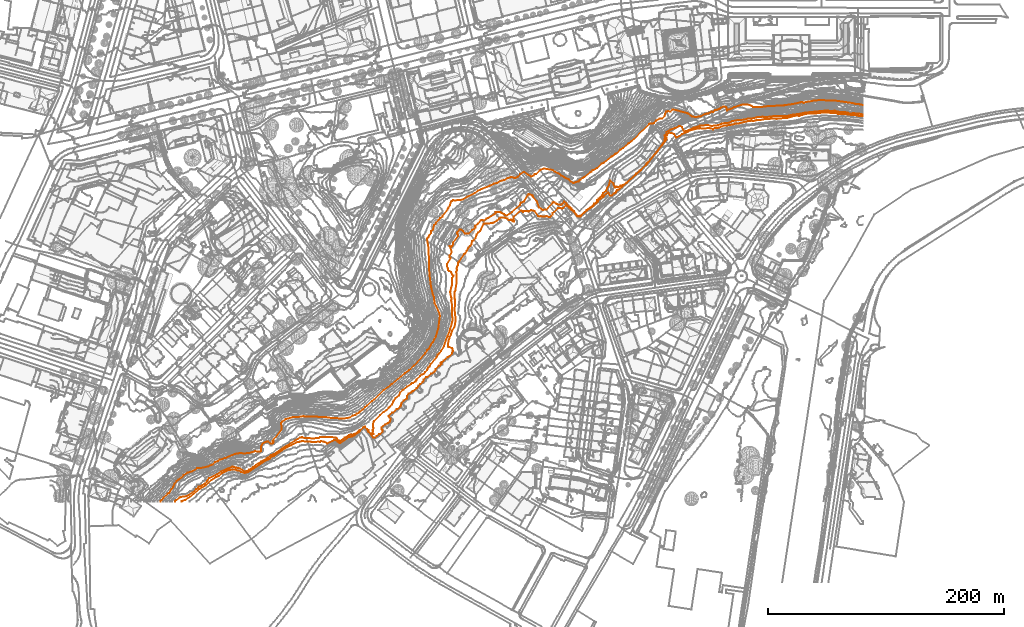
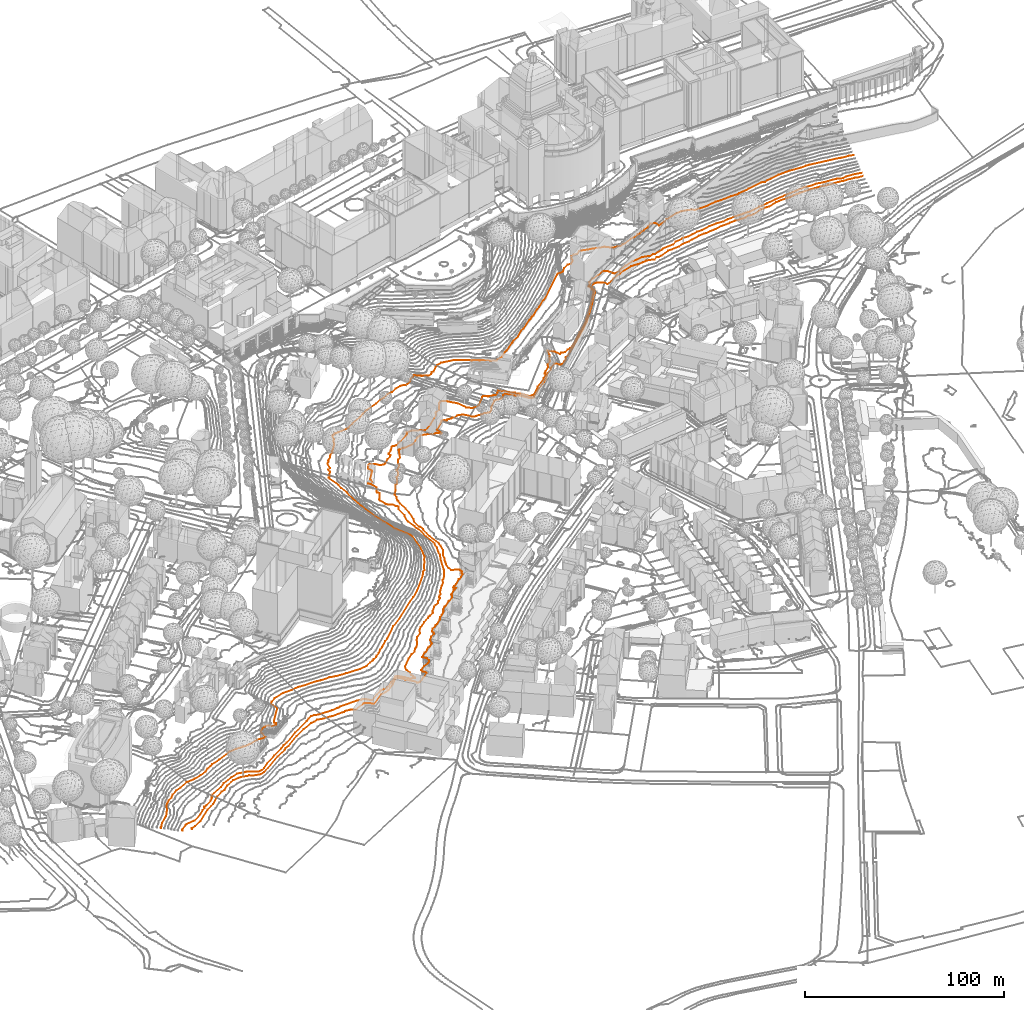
# Not in any storey, part 147 of 477: 3 geographic elements.
"""IFC4 model written with IfcOpenShell, lengths in metres."""

from ifc_helpers import new_model, entity, si_unit, frame, origin_with_axes, place, context, subcontext, project, spatial, element, save


model = new_model("IFC4")

# Units and contexts
model_context = context("Model", 3, precision=1e-05, world=origin_with_axes())
body_context = subcontext(model_context, "Body", "Model", "MODEL_VIEW")
ifc_project = project(units=[si_unit("AREAUNIT", "SQUARE_METRE"), si_unit("LENGTHUNIT", "METRE")], contexts=[model_context])

# Sites
site_1_placement = place(None, origin_with_axes())
site_1 = spatial("IfcSite", under=ifc_project, at=site_1_placement, Name="Topoexport Site")
site_2_placement = place(site_1_placement, origin_with_axes())
site_2 = spatial("IfcSite", under=site_1, at=site_2_placement, Name="TPX_CONTOUR_LINES")

# Geographic elements
geographic_element_1_placement = place(site_2_placement, frame((110.3940520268, -1.3292839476, 510.0), z_axis=(0.0, 0.0, 1.0), x_axis=(1.0, 0.0, 0.0)))
element("IfcGeographicElement", 1, at=geographic_element_1_placement, inside=site_2, Name="Contour Line 510.0 m", PredefinedType="NOTDEFINED", context=body_context, shape_type="GeometricCurveSet", body=[
    entity("IfcGeometricCurveSet", [entity("IfcIndexedPolyCurve", entity("IfcCartesianPointList3D", [[577.7836799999, 326.7669789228, 0.0], [574.2836799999, 326.7363557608, 0.0], [573.2836799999, 327.2313932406, 0.0], [569.2836799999, 327.7777656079, 0.0], [567.2836799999, 327.7127699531, 0.0], [564.2836799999, 328.3442526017, 0.0], [556.2836799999, 328.6781323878, 0.0], [554.2836799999, 329.5266267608, 0.0], [551.2836799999, 329.3858442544, 0.0], [548.2836799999, 329.7452839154, 0.0], [543.2836799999, 329.7, 0.0], [539.2836799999, 329.479507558, 0.0], [537.2836799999, 328.9265868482, 0.0], [530.2836799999, 328.789107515, 0.0], [528.3040771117, 328.5, 0.0], [523.2836799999, 327.066602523, 0.0], [521.2836799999, 327.222120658, 0.0], [518.2836799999, 326.7642361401, 0.0], [513.2836799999, 325.1437253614, 0.0], [511.2836799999, 325.0544992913, 0.0], [510.2836799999, 325.4523024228, 0.0], [508.2836799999, 324.7692546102, 0.0], [506.2836799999, 324.5548365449, 0.0], [505.2836799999, 324.789287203, 0.0], [504.2836799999, 324.4523084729, 0.0], [502.2836799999, 324.9163976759, 0.0], [499.2836799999, 324.6900641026, 0.0], [498.2836799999, 324.3695863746, 0.0], [494.2836799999, 324.3192395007, 0.0], [490.2836799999, 323.416148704, 0.0], [487.2836799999, 323.2964714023, 0.0], [484.2836799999, 322.6005133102, 0.0], [483.2836799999, 322.9277991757, 0.0], [480.2836799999, 322.5326086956, 0.0], [475.4557765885, 321.5, 0.0], [473.2836799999, 320.7614421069, 0.0], [469.2836799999, 320.4181371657, 0.0], [466.7329553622, 319.5, 0.0], [462.2836799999, 318.9413965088, 0.0], [460.2836799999, 318.9672734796, 0.0], [455.2836799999, 316.9868456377, 0.0], [453.2836799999, 316.5242144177, 0.0], [452.2836799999, 316.7693165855, 0.0], [450.2836799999, 315.6243574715, 0.0], [448.2836799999, 316.4707380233, 0.0], [446.2836799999, 316.835152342, 0.0], [444.2836799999, 316.3807059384, 0.0], [441.2836799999, 316.1952743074, 0.0], [439.2836799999, 316.5044080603, 0.0], [437.2836799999, 316.322696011, 0.0], [430.2836799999, 314.5551996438, 0.0], [429.2836799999, 313.6448474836, 0.0], [424.2836799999, 311.633938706, 0.0], [422.2836799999, 310.0085699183, 0.0], [419.2836799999, 308.8155286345, 0.0], [418.3800540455, 310.5, 0.0], [417.2836799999, 311.5084341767, 0.0], [415.2836799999, 312.6206305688, 0.0], [414.2836799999, 312.4916080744, 0.0], [413.2836799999, 312.764098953, 0.0], [411.2836799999, 310.8616551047, 0.0], [410.2008664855, 310.5, 0.0], [410.2584948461, 309.5, 0.0], [410.9462468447, 308.5, 0.0], [410.9724845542, 307.5, 0.0], [409.9808860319, 305.5, 0.0], [408.2836799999, 303.7046351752, 0.0], [403.6646736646, 297.5, 0.0], [393.7689650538, 285.5, 0.0], [389.2836799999, 281.1501439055, 0.0], [377.2836799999, 270.2683984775, 0.0], [370.2836799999, 264.460807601, 0.0], [369.2836799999, 263.9375782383, 0.0], [368.8121370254, 263.5, 0.0], [368.4382099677, 262.5, 0.0], [367.2836799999, 261.3862745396, 0.0], [366.2836799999, 260.9708987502, 0.0], [364.4357134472, 259.5, 0.0], [363.3389468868, 259.5, 0.0], [361.907327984, 261.5, 0.0], [361.2836799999, 261.8848020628, 0.0], [358.2836799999, 259.6830010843, 0.0], [357.2836799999, 258.2333138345, 0.0], [354.2836799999, 256.3672271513, 0.0], [353.2836799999, 255.4839335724, 0.0], [352.8657751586, 254.5, 0.0], [348.651875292, 250.5, 0.0], [343.2836799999, 246.6326606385, 0.0], [337.6255837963, 241.5, 0.0], [336.5901996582, 241.5, 0.0], [335.2836799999, 242.1197017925, 0.0], [332.2836799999, 246.0546306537, 0.0], [329.9327809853, 247.5, 0.0], [329.8483025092, 248.5, 0.0], [328.2357803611, 249.5, 0.0], [327.2836799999, 250.6387567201, 0.0], [326.2836799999, 251.0521917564, 0.0], [325.2836799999, 250.8266576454, 0.0], [323.2836799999, 248.904403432, 0.0], [322.2836799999, 248.5010464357, 0.0], [320.2836799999, 249.0571441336, 0.0], [319.2836799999, 248.9402390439, 0.0], [318.642635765, 248.5, 0.0], [314.5530472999, 244.5, 0.0], [314.3068471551, 243.5, 0.0], [312.2836799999, 241.3627997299, 0.0], [311.2836799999, 241.191755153, 0.0], [309.2836799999, 241.9187003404, 0.0], [306.2836799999, 241.6917665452, 0.0], [304.2836799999, 241.9492137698, 0.0], [303.2836799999, 241.7278828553, 0.0], [302.2836799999, 242.1807493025, 0.0], [299.2836799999, 246.2684630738, 0.0], [296.2836799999, 247.0476590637, 0.0], [294.2836799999, 246.0580046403, 0.0], [293.2836799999, 246.4304552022, 0.0], [292.2836799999, 246.2491626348, 0.0], [290.2836799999, 246.4360632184, 0.0], [289.2836799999, 245.3019607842, 0.0], [288.63953157, 246.5, 0.0], [287.2836799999, 246.8208041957, 0.0], [281.5077059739, 241.5, 0.0], [281.3451554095, 240.5, 0.0], [281.8093942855, 237.5, 0.0], [281.2836799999, 237.2771197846, 0.0], [280.2836799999, 238.3634204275, 0.0], [279.2836799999, 238.9767844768, 0.0], [278.2836799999, 238.5259879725, 0.0], [277.2836799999, 238.7311155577, 0.0], [276.2836799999, 239.9114502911, 0.0], [272.2836799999, 240.9739934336, 0.0], [271.2836799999, 240.9604374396, 0.0], [270.2836799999, 240.7085462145, 0.0], [269.2836799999, 240.0613516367, 0.0], [267.2836799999, 238.2057826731, 0.0], [264.2836799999, 236.3823067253, 0.0], [259.2836799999, 235.6501711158, 0.0], [258.2836799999, 235.8778004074, 0.0], [256.2836799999, 235.7762333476, 0.0], [255.8634116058, 235.5, 0.0], [253.0965344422, 229.5, 0.0], [251.2836799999, 228.2091656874, 0.0], [250.1787381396, 226.5, 0.0], [249.0941987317, 223.5, 0.0], [247.2836799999, 221.4758928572, 0.0], [246.2836799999, 220.9092465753, 0.0], [245.6120382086, 218.5, 0.0], [244.4227876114, 216.5, 0.0], [243.1567807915, 215.5, 0.0], [241.7228167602, 212.5, 0.0], [240.3370090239, 210.5, 0.0], [239.2836799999, 210.0264120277, 0.0], [235.2836799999, 203.4226904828, 0.0], [234.4561455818, 202.5, 0.0], [234.3808540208, 200.5, 0.0], [233.6906493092, 199.5, 0.0], [233.1740274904, 197.5, 0.0], [233.3512597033, 196.5, 0.0], [232.8370220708, 194.5, 0.0], [233.1739829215, 189.5, 0.0], [233.0512440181, 185.5, 0.0], [232.0480336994, 179.5, 0.0], [231.3065682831, 177.5, 0.0], [231.2415221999, 172.5, 0.0], [231.6637897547, 171.5, 0.0], [231.7655725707, 169.5, 0.0], [231.4440615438, 162.5, 0.0], [232.3314152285, 154.5, 0.0], [232.1377025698, 152.5, 0.0], [231.3691933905, 148.5, 0.0], [229.2836799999, 145.156663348, 0.0], [228.199764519, 141.5, 0.0], [227.1342481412, 139.5, 0.0], [227.0685223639, 138.5, 0.0], [226.2505929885, 136.5, 0.0], [225.778428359, 133.5, 0.0], [225.9803436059, 131.5, 0.0], [226.2836799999, 131.1812479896, 0.0], [229.2836799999, 130.1188466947, 0.0], [229.8392355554, 129.5, 0.0], [229.7735426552, 128.5, 0.0], [230.1971551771, 127.5, 0.0], [229.2836799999, 126.5430906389, 0.0], [229.2160609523, 125.5, 0.0], [227.1802517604, 123.5, 0.0], [225.7541426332, 122.5, 0.0], [225.2836799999, 122.4936468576, 0.0], [222.1785204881, 119.5, 0.0], [220.7957223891, 118.5, 0.0], [220.2836799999, 118.4831184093, 0.0], [219.3129257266, 117.5, 0.0], [220.2838059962, 116.5, 0.0], [218.9630075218, 115.5, 0.0], [218.2836799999, 115.4268913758, 0.0], [215.2836799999, 112.514488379, 0.0], [215.2784851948, 111.5, 0.0], [214.2836799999, 110.1564495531, 0.0], [211.8779609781, 108.5, 0.0], [211.2836799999, 108.4904201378, 0.0], [208.0333989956, 105.5, 0.0], [207.2836799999, 105.4844258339, 0.0], [205.2871901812, 103.5, 0.0], [205.1739197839, 102.5, 0.0], [204.2891312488, 101.5, 0.0], [202.2577262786, 99.5, 0.0], [200.7014263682, 98.5, 0.0], [199.6037858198, 96.5, 0.0], [199.2836799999, 96.4969447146, 0.0], [196.2836799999, 93.7531486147, 0.0], [195.2836799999, 93.4926540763, 0.0], [194.2836802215, 92.5, 0.0], [192.2836799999, 91.5734265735, 0.0], [190.9119829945, 89.5, 0.0], [191.1563712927, 88.5, 0.0], [190.9825810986, 87.5, 0.0], [188.2836799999, 85.7916160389, 0.0], [186.2837290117, 83.5, 0.0], [185.6187382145, 80.5, 0.0], [185.2836799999, 80.4978298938, 0.0], [183.1454358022, 78.5, 0.0], [182.2836799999, 78.4473413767, 0.0], [179.1796092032, 75.5, 0.0], [178.2836799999, 75.4279286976, 0.0], [175.3194162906, 72.5, 0.0], [176.9561814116, 70.5, 0.0], [176.8713445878, 68.5, 0.0], [176.3095979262, 67.5, 0.0], [175.1287943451, 66.5, 0.0], [172.2836799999, 65.4991094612, 0.0], [169.2836799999, 62.9692343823, 0.0], [169.2933348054, 61.5, 0.0], [170.2887345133, 60.5, 0.0], [170.3627266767, 59.5, 0.0], [168.2836799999, 57.4561320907, 0.0], [167.2836799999, 57.3195591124, 0.0], [165.4036402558, 55.5, 0.0], [163.8027508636, 54.5, 0.0], [163.2836799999, 54.2742641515, 0.0], [162.2836799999, 54.3816979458, 0.0], [161.0823064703, 56.5, 0.0], [158.1637828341, 59.5, 0.0], [157.1149885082, 61.5, 0.0], [155.2836799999, 63.376478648, 0.0], [154.2836799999, 63.0262282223, 0.0], [150.2836799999, 59.0628554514, 0.0], [146.2836799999, 56.0095277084, 0.0], [144.2836799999, 55.2670542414, 0.0], [141.2836799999, 54.6436326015, 0.0], [134.2836799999, 49.5531370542, 0.0], [133.2836799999, 49.9550752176, 0.0], [132.2836799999, 50.9891848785, 0.0], [130.2836799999, 52.1925983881, 0.0], [129.2836799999, 52.0323445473, 0.0], [123.2836799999, 49.4648133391, 0.0], [121.2836799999, 50.6211346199, 0.0], [118.2836799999, 51.2498813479, 0.0], [117.2836799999, 50.624030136, 0.0], [116.2836799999, 50.863098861, 0.0], [110.2836799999, 50.4154889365, 0.0], [109.2836799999, 50.7448965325, 0.0], [105.2836799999, 50.8666201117, 0.0], [102.2836799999, 51.4206705, 0.0], [100.2836799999, 50.7785874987, 0.0], [98.2836799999, 50.5271245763, 0.0], [92.2836799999, 47.7002538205, 0.0], [86.2836799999, 44.4179323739, 0.0], [78.2836799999, 38.7993949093, 0.0], [76.2836799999, 38.0820981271, 0.0], [74.8856596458, 36.5, 0.0], [68.8334551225, 33.5, 0.0], [56.2836799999, 25.0034428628, 0.0], [53.2836799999, 24.3866336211, 0.0], [50.2836799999, 25.2345808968, 0.0], [48.2836799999, 26.4942008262, 0.0], [47.2836799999, 26.3473063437, 0.0], [45.2836799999, 27.0523025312, 0.0], [43.2836799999, 27.2379372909, 0.0], [39.2836799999, 26.6669181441, 0.0], [34.2836799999, 24.2291846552, 0.0], [31.2836799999, 21.625360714, 0.0], [29.2836799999, 20.8521467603, 0.0], [25.2915054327, 18.5, 0.0], [20.2836799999, 13.8110305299, 0.0], [15.2836799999, 10.839507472, 0.0], [7.2836799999, 4.1190602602, 0.0], [2.7371754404, 1.5, 0.0], [0.2836799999, 0.6716027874, 0.0], [0.0, 0.5, 0.0], [0.0, 0.0, 0.0]]))]),
])
geographic_element_2_placement = place(site_2_placement, frame((104.9897732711, -1.3292839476, 511.0), z_axis=(0.0, 0.0, 1.0), x_axis=(1.0, 0.0, 0.0)))
element("IfcGeographicElement", 2, at=geographic_element_2_placement, inside=site_2, Name="Contour Line 511.0 m", PredefinedType="NOTDEFINED", context=body_context, shape_type="GeometricCurveSet", body=[
    entity("IfcGeometricCurveSet", [entity("IfcIndexedPolyCurve", entity("IfcCartesianPointList3D", [[583.1879587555, 328.0868278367, 0.0], [579.6879587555, 328.8514925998, 0.0], [574.6879587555, 329.3476314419, 0.0], [572.6879587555, 328.8723041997, 0.0], [571.6879587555, 328.9434471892, 0.0], [569.6879587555, 329.7695592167, 0.0], [567.6879587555, 330.1892072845, 0.0], [562.6879587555, 330.4013056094, 0.0], [558.6879587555, 331.3274114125, 0.0], [555.6879587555, 331.1129590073, 0.0], [551.6879587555, 331.5608138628, 0.0], [533.6879587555, 329.7352878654, 0.0], [528.6879587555, 328.6986351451, 0.0], [523.6879587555, 328.0695085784, 0.0], [517.6879587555, 326.7325557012, 0.0], [516.6879587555, 326.703168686, 0.0], [515.6879587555, 327.0593174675, 0.0], [513.6879587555, 326.7537304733, 0.0], [510.6879587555, 326.8982940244, 0.0], [504.6879587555, 326.5735788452, 0.0], [501.6879587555, 326.0233233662, 0.0], [497.6879587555, 326.2463699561, 0.0], [493.6879587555, 325.9273774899, 0.0], [488.6879587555, 324.7942718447, 0.0], [485.6879587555, 324.7562607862, 0.0], [482.6879587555, 323.9513885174, 0.0], [479.6879587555, 323.537800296, 0.0], [476.6879587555, 323.5038960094, 0.0], [472.0364629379, 322.5, 0.0], [469.6879587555, 321.2358292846, 0.0], [463.6879587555, 320.631585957, 0.0], [462.6879587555, 319.8966166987, 0.0], [457.6879587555, 318.6191655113, 0.0], [456.6879587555, 318.8134226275, 0.0], [454.6879587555, 318.329010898, 0.0], [450.6879587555, 319.3672172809, 0.0], [446.6879587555, 318.7229601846, 0.0], [444.6879587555, 318.6816693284, 0.0], [439.6879587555, 317.0343430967, 0.0], [435.6879587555, 315.189414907, 0.0], [434.6879587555, 314.4528764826, 0.0], [431.6879587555, 313.8918153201, 0.0], [431.0122767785, 314.5, 0.0], [429.5246551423, 317.5, 0.0], [428.0763637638, 318.5, 0.0], [427.235517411, 318.5, 0.0], [423.6879587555, 316.7241805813, 0.0], [419.6879587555, 315.3586894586, 0.0], [416.5208170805, 313.5, 0.0], [416.5719683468, 312.5, 0.0], [414.6829614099, 310.5, 0.0], [415.3162440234, 308.5, 0.0], [414.6839523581, 307.5, 0.0], [415.0360345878, 306.5, 0.0], [414.7054858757, 305.5, 0.0], [407.9005779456, 296.5, 0.0], [402.6879587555, 290.1286797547, 0.0], [399.3238450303, 286.5, 0.0], [398.8927438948, 285.5, 0.0], [393.6879587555, 280.479521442, 0.0], [390.6879587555, 278.020243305, 0.0], [382.6879587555, 270.4943659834, 0.0], [379.6879587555, 268.4423057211, 0.0], [377.6879587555, 267.8903975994, 0.0], [375.6879587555, 266.8775645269, 0.0], [374.6879587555, 266.762867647, 0.0], [373.6879587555, 267.2857751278, 0.0], [372.6879587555, 266.3877415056, 0.0], [371.3344290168, 269.5, 0.0], [368.6879587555, 272.0690184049, 0.0], [367.6277150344, 268.5, 0.0], [365.8501461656, 265.5, 0.0], [365.1176326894, 263.5, 0.0], [362.6879587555, 261.6815428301, 0.0], [361.6724792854, 259.5, 0.0], [358.6879587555, 257.066743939, 0.0], [357.4410313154, 255.5, 0.0], [357.3799066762, 254.5, 0.0], [355.1156905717, 252.5, 0.0], [354.3802894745, 251.5, 0.0], [348.6879587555, 247.3483379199, 0.0], [343.6879587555, 242.3953123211, 0.0], [342.6879587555, 242.0981702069, 0.0], [340.6879587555, 242.4086332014, 0.0], [338.0586298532, 246.5, 0.0], [335.9192899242, 247.5, 0.0], [336.1277524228, 248.5, 0.0], [333.6879587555, 250.2499761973, 0.0], [331.6879587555, 252.7122709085, 0.0], [329.6879587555, 254.2955390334, 0.0], [328.1135548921, 252.5, 0.0], [326.6879587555, 251.4532143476, 0.0], [325.6879587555, 251.916680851, 0.0], [323.6879587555, 252.107142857, 0.0], [322.7297774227, 252.5, 0.0], [321.7255727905, 253.5, 0.0], [320.6879587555, 253.8094714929, 0.0], [320.0207934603, 253.5, 0.0], [314.6879587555, 247.7979885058, 0.0], [311.6879587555, 247.3584948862, 0.0], [310.6879587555, 247.6745019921, 0.0], [308.469306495, 249.5, 0.0], [306.7140997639, 254.5, 0.0], [303.1791616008, 258.5, 0.0], [302.7059130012, 259.5, 0.0], [300.6879587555, 260.4415307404, 0.0], [299.6879587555, 260.5787144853, 0.0], [298.4891321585, 259.5, 0.0], [295.4852647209, 254.5, 0.0], [293.3306013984, 253.5, 0.0], [292.6879587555, 252.9228977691, 0.0], [292.2342605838, 251.5, 0.0], [285.3234319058, 245.5, 0.0], [280.6879587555, 242.5311383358, 0.0], [279.6879587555, 242.8120376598, 0.0], [278.6879587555, 243.765885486, 0.0], [276.7431563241, 244.5, 0.0], [275.6879587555, 245.2770494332, 0.0], [274.6879587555, 245.5748346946, 0.0], [271.6879587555, 245.6369154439, 0.0], [271.4470597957, 245.5, 0.0], [271.3327007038, 244.5, 0.0], [270.6879587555, 243.8379159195, 0.0], [265.2120284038, 240.5, 0.0], [263.6879587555, 240.0488798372, 0.0], [261.6879587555, 238.3333785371, 0.0], [260.3291738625, 238.5, 0.0], [259.6879587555, 238.866150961, 0.0], [258.6879587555, 238.3457405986, 0.0], [256.6879587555, 235.6158068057, 0.0], [254.6879587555, 234.1876233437, 0.0], [254.2389528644, 233.5, 0.0], [254.6879587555, 232.4140271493, 0.0], [253.8183400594, 231.5, 0.0], [251.6879587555, 230.2622646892, 0.0], [248.6879587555, 227.3096376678, 0.0], [247.6879587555, 227.1272775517, 0.0], [245.6879587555, 227.4074254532, 0.0], [243.9850048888, 229.5, 0.0], [241.6879587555, 230.6995397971, 0.0], [240.8025043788, 230.5, 0.0], [239.3982432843, 228.5, 0.0], [239.037749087, 227.5, 0.0], [239.8095066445, 225.5, 0.0], [239.6879587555, 224.9621099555, 0.0], [235.4449325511, 219.5, 0.0], [235.4153409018, 218.5, 0.0], [234.788216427, 216.5, 0.0], [233.6879587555, 215.8023732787, 0.0], [232.6879587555, 216.6244509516, 0.0], [232.4499968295, 216.5, 0.0], [233.2916453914, 215.5, 0.0], [234.4122458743, 211.5, 0.0], [232.6634648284, 208.5, 0.0], [232.4110809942, 207.5, 0.0], [233.4084370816, 206.5, 0.0], [230.3276676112, 201.5, 0.0], [230.2433235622, 200.5, 0.0], [231.0984850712, 197.5, 0.0], [231.1310400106, 196.5, 0.0], [232.0741564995, 195.5, 0.0], [233.9211949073, 194.5, 0.0], [234.6879587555, 192.5983778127, 0.0], [235.7362516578, 191.5, 0.0], [234.7250920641, 189.5, 0.0], [234.6894771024, 183.5, 0.0], [234.0827935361, 182.5, 0.0], [233.0857751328, 177.5, 0.0], [234.059417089, 172.5, 0.0], [234.0003091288, 170.5, 0.0], [234.7246602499, 166.5, 0.0], [234.4826368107, 161.5, 0.0], [235.1131856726, 154.5, 0.0], [234.3267463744, 150.5, 0.0], [232.9051654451, 146.5, 0.0], [232.6321134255, 144.5, 0.0], [230.7392490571, 140.5, 0.0], [227.6879587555, 131.9912349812, 0.0], [225.2736966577, 127.5, 0.0], [223.6879587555, 125.4693510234, 0.0], [222.5423632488, 124.5, 0.0], [221.690551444, 122.5, 0.0], [219.6879587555, 120.4786052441, 0.0], [216.535675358, 116.5, 0.0], [215.6879587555, 114.6316172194, 0.0], [214.3554686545, 113.5, 0.0], [213.6879587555, 112.5042657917, 0.0], [213.5308637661, 111.5, 0.0], [211.6879587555, 109.9610589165, 0.0], [210.6879587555, 108.3092765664, 0.0], [208.6879587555, 107.6103434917, 0.0], [207.3791620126, 106.5, 0.0], [204.5307232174, 103.5, 0.0], [204.3015596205, 102.5, 0.0], [203.6879587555, 101.9628168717, 0.0], [201.6879587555, 100.7092553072, 0.0], [200.6879587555, 100.626257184, 0.0], [199.6879587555, 99.6099447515, 0.0], [196.3184925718, 97.5, 0.0], [193.6879587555, 95.1524843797, 0.0], [192.5199854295, 94.5, 0.0], [190.6382876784, 92.5, 0.0], [189.6879587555, 90.0851363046, 0.0], [186.6879587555, 87.9517480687, 0.0], [185.0831773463, 85.5, 0.0], [184.8162627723, 84.5, 0.0], [183.6287761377, 82.5, 0.0], [181.6879587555, 80.1621223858, 0.0], [180.664366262, 79.5, 0.0], [179.0851403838, 77.5, 0.0], [176.6879587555, 76.1360386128, 0.0], [173.4810110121, 73.5, 0.0], [168.4002234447, 68.5, 0.0], [167.5732210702, 65.5, 0.0], [167.9054847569, 62.5, 0.0], [167.4586559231, 60.5, 0.0], [167.8163904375, 59.5, 0.0], [167.4035199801, 58.5, 0.0], [168.012869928, 57.5, 0.0], [167.6879587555, 57.1058429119, 0.0], [166.6879587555, 57.703125, 0.0], [165.6879587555, 57.8158974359, 0.0], [163.6879587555, 60.0661066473, 0.0], [163.6785619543, 60.5, 0.0], [160.6879587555, 63.4974960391, 0.0], [159.6879587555, 63.4156466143, 0.0], [156.6879587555, 60.5299234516, 0.0], [155.6879587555, 60.1794436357, 0.0], [152.6879587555, 57.6236051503, 0.0], [151.6879587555, 57.2425295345, 0.0], [150.8766451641, 56.5, 0.0], [148.6879587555, 56.8739094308, 0.0], [147.3784676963, 56.5, 0.0], [146.6879587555, 55.809491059, 0.0], [143.6879587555, 54.3110403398, 0.0], [139.6879587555, 51.4546351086, 0.0], [138.6879587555, 51.8075889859, 0.0], [137.1843254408, 53.5, 0.0], [135.6879587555, 54.3570941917, 0.0], [134.6879587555, 54.2996706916, 0.0], [132.6879587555, 54.8305911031, 0.0], [122.6879587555, 54.560559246, 0.0], [121.6879587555, 54.0124869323, 0.0], [120.6879587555, 54.1078286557, 0.0], [117.6879587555, 53.6432252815, 0.0], [109.6879587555, 53.7884848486, 0.0], [107.6879587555, 54.5617091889, 0.0], [105.8940173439, 54.5, 0.0], [103.6879587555, 53.2785620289, 0.0], [101.6879587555, 51.7095506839, 0.0], [91.6879587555, 46.0195851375, 0.0], [83.6879587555, 40.4316116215, 0.0], [81.295468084, 39.5, 0.0], [78.8024319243, 37.5, 0.0], [72.6879587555, 33.9901065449, 0.0], [65.8527228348, 29.5, 0.0], [62.6879587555, 27.0048108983, 0.0], [60.6879587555, 25.8926151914, 0.0], [58.6879587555, 25.6453969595, 0.0], [53.6879587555, 28.6527353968, 0.0], [52.6879587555, 28.5804934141, 0.0], [48.6879587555, 29.5481369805, 0.0], [44.6879587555, 28.1872383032, 0.0], [38.5728681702, 25.5, 0.0], [35.7756744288, 23.5, 0.0], [28.6879587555, 19.8358909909, 0.0], [27.6879587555, 18.8558371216, 0.0], [27.0492435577, 17.5, 0.0], [25.2901011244, 15.5, 0.0], [21.6879587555, 13.278263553, 0.0], [19.6879587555, 12.638046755, 0.0], [19.2480955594, 11.5, 0.0], [17.6879587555, 10.516824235, 0.0], [14.6879587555, 7.8028121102, 0.0], [9.6879587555, 4.705981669, 0.0], [4.6879587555, 3.9800265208, 0.0], [3.6879587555, 3.5291502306, 0.0], [0.6879587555, 1.1677692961, 0.0], [0.0, 0.5, 0.0], [0.0, 0.0, 0.0]]))]),
])
geographic_element_3_placement = place(site_2_placement, frame((92.3896694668, -1.3292839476, 517.0), z_axis=(0.0, 0.0, 1.0), x_axis=(1.0, 0.0, 0.0)))
element("IfcGeographicElement", 3, at=geographic_element_3_placement, inside=site_2, Name="Contour Line 517.0 m", PredefinedType="NOTDEFINED", context=body_context, shape_type="GeometricCurveSet", body=[
    entity("IfcGeometricCurveSet", [entity("IfcIndexedPolyCurve", entity("IfcCartesianPointList3D", [[595.7880625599, 336.1942220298, 0.0], [593.2880625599, 336.7965341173, 0.0], [589.2880625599, 337.0710653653, 0.0], [588.2880625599, 337.5476312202, 0.0], [572.2880625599, 339.8930996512, 0.0], [570.2880625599, 340.0643234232, 0.0], [567.2880625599, 339.8412961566, 0.0], [561.2880625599, 340.3769964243, 0.0], [554.2880625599, 340.110895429, 0.0], [549.2880625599, 339.0159686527, 0.0], [547.2880625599, 338.8611859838, 0.0], [545.2880625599, 338.0165509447, 0.0], [544.2880625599, 338.576481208, 0.0], [543.2880625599, 338.6394981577, 0.0], [535.2880625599, 336.9249316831, 0.0], [529.2880625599, 336.0643457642, 0.0], [528.2880625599, 335.648951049, 0.0], [524.2880625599, 335.7884357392, 0.0], [518.2880625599, 335.3058192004, 0.0], [515.2880625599, 335.376165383, 0.0], [509.2880625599, 334.4962450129, 0.0], [503.2880625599, 334.3103206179, 0.0], [502.4639649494, 334.5, 0.0], [501.2524210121, 335.5, 0.0], [499.2880625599, 336.20316253, 0.0], [496.2880625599, 336.8085126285, 0.0], [493.2880625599, 336.6635540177, 0.0], [486.2880625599, 334.4122684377, 0.0], [484.2880625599, 333.3027825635, 0.0], [481.2880625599, 332.1711702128, 0.0], [480.2880625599, 331.4777163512, 0.0], [480.0089141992, 333.5, 0.0], [479.5804265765, 334.5, 0.0], [477.2880625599, 335.0441732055, 0.0], [475.2880625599, 333.9338482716, 0.0], [474.2880625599, 333.0165675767, 0.0], [472.3786531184, 332.5, 0.0], [471.2880625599, 331.8416211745, 0.0], [470.2880625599, 331.7496544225, 0.0], [468.2880625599, 330.4268066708, 0.0], [467.2880625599, 330.5436743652, 0.0], [464.2880625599, 329.0776801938, 0.0], [462.2880625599, 328.7313370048, 0.0], [457.2880625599, 326.5101483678, 0.0], [456.2880625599, 326.57920118, 0.0], [454.2880625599, 325.8349641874, 0.0], [450.8064750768, 326.5, 0.0], [449.2880625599, 327.3509250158, 0.0], [447.2880625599, 329.1097059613, 0.0], [434.2880625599, 332.5326705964, 0.0], [432.2880625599, 330.6647940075, 0.0], [430.2880625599, 330.949499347, 0.0], [428.829094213, 330.5, 0.0], [427.7871126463, 328.5, 0.0], [427.2880625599, 326.7573284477, 0.0], [425.2880625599, 324.7727457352, 0.0], [423.2880625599, 324.8893832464, 0.0], [420.2880625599, 323.1778447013, 0.0], [418.2880625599, 320.8132942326, 0.0], [416.2880625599, 320.4103879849, 0.0], [415.2880625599, 320.5304259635, 0.0], [414.2880625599, 319.9518025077, 0.0], [399.2880625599, 305.5817648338, 0.0], [397.2880625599, 303.9687790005, 0.0], [396.2880625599, 303.5719854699, 0.0], [392.2880625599, 299.8097723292, 0.0], [390.1056664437, 298.5, 0.0], [386.2880625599, 294.9423970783, 0.0], [385.2880625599, 294.6391885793, 0.0], [383.2880625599, 292.9304471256, 0.0], [382.2880625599, 292.5762170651, 0.0], [376.2880625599, 287.5353565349, 0.0], [374.0962217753, 286.5, 0.0], [370.2880625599, 282.8481560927, 0.0], [366.2880625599, 280.8840539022, 0.0], [365.2880625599, 279.7413958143, 0.0], [364.6352798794, 279.5, 0.0], [359.2880625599, 275.076967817, 0.0], [357.7401355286, 274.5, 0.0], [356.2880625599, 272.8636505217, 0.0], [355.2880625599, 272.5082463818, 0.0], [354.4923256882, 271.5, 0.0], [351.2880625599, 270.672955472, 0.0], [350.2880625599, 269.901623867, 0.0], [347.8846132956, 271.5, 0.0], [346.2880625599, 273.1532011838, 0.0], [343.2880625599, 274.3975454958, 0.0], [342.2880625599, 275.2005241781, 0.0], [339.669014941, 276.5, 0.0], [338.2880625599, 277.8063788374, 0.0], [334.2880625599, 279.6820739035, 0.0], [332.2880625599, 281.090730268, 0.0], [325.2880625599, 282.3312945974, 0.0], [322.7136791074, 281.5, 0.0], [321.2352897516, 280.5, 0.0], [318.2880625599, 277.7304038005, 0.0], [317.2880625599, 277.5678180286, 0.0], [316.2880625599, 276.3671241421, 0.0], [314.2880625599, 275.6671913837, 0.0], [311.2880625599, 277.2155762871, 0.0], [308.2880625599, 279.5859110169, 0.0], [307.7586891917, 279.5, 0.0], [305.0471403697, 277.5, 0.0], [303.3041915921, 275.5, 0.0], [301.2880625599, 274.5558856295, 0.0], [300.2880625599, 274.3481375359, 0.0], [299.2880625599, 274.8756849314, 0.0], [297.2880625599, 274.9988780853, 0.0], [294.2880625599, 274.257607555, 0.0], [291.2880625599, 272.5527577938, 0.0], [288.2880625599, 271.9635509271, 0.0], [285.2880625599, 270.2425162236, 0.0], [282.6668346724, 269.5, 0.0], [279.2880625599, 267.8038486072, 0.0], [272.2880625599, 265.1057869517, 0.0], [269.2880625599, 263.5384197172, 0.0], [266.4798224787, 261.5, 0.0], [260.2880625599, 258.6261093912, 0.0], [256.2880625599, 256.0586528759, 0.0], [250.2880625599, 255.3581116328, 0.0], [248.1979265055, 255.5, 0.0], [247.2880625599, 254.6314935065, 0.0], [246.2880625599, 254.4396825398, 0.0], [245.5054538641, 251.5, 0.0], [244.160691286, 249.5, 0.0], [243.3848666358, 247.5, 0.0], [239.3720089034, 242.5, 0.0], [238.9920189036, 241.5, 0.0], [237.0987228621, 240.5, 0.0], [235.630060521, 238.5, 0.0], [233.5764478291, 236.5, 0.0], [233.1251768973, 235.5, 0.0], [231.9499781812, 234.5, 0.0], [231.0520331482, 230.5, 0.0], [229.5393806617, 229.5, 0.0], [229.4444155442, 227.5, 0.0], [227.7859878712, 225.5, 0.0], [227.2880625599, 224.2717206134, 0.0], [226.2880625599, 223.5761179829, 0.0], [226.0975863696, 222.5, 0.0], [227.322105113, 215.5, 0.0], [227.2158076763, 212.5, 0.0], [227.6967248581, 207.5, 0.0], [227.5891275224, 201.5, 0.0], [228.0641803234, 193.5, 0.0], [229.4277944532, 182.5, 0.0], [230.8100525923, 176.5, 0.0], [231.8700527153, 173.5, 0.0], [232.528373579, 168.5, 0.0], [236.6905446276, 159.5, 0.0], [236.936628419, 157.5, 0.0], [235.7029296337, 147.5, 0.0], [233.3544804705, 139.5, 0.0], [231.9846286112, 137.5, 0.0], [231.0404587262, 135.5, 0.0], [229.2880625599, 133.0904353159, 0.0], [227.5339086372, 129.5, 0.0], [226.1806862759, 128.5, 0.0], [224.2431176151, 125.5, 0.0], [215.1377015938, 115.5, 0.0], [210.6638958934, 111.5, 0.0], [207.2880625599, 109.0759359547, 0.0], [196.0100547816, 99.5, 0.0], [189.2880625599, 94.5504561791, 0.0], [181.2880625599, 86.7234445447, 0.0], [179.2880625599, 85.4424452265, 0.0], [175.2880625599, 81.5117500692, 0.0], [173.2880625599, 80.1278032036, 0.0], [171.2880625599, 77.8911445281, 0.0], [169.2098384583, 76.5, 0.0], [168.2880625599, 75.4515142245, 0.0], [166.3406795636, 74.5, 0.0], [165.2880625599, 73.5599411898, 0.0], [163.2880625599, 73.0368088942, 0.0], [160.2880625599, 71.2279060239, 0.0], [156.2880625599, 70.5267187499, 0.0], [148.2880625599, 70.7085127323, 0.0], [142.2880625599, 71.2063819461, 0.0], [139.2880625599, 71.9068367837, 0.0], [134.2880625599, 71.7283376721, 0.0], [132.2880625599, 72.1503067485, 0.0], [122.2880625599, 72.2579508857, 0.0], [121.2880625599, 72.5350482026, 0.0], [117.2880625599, 71.7996395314, 0.0], [112.2880625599, 71.7480753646, 0.0], [106.2880625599, 69.887575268, 0.0], [103.2880625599, 67.8822625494, 0.0], [102.35611394, 66.5, 0.0], [102.9188442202, 61.5, 0.0], [95.8271743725, 52.5, 0.0], [95.243555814, 51.5, 0.0], [95.876364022, 50.5, 0.0], [95.3336005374, 49.5, 0.0], [93.2880625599, 49.096278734, 0.0], [91.2880625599, 50.9686742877, 0.0], [89.2880625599, 50.7145359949, 0.0], [87.2880625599, 49.8496264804, 0.0], [86.0382291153, 48.5, 0.0], [85.2105910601, 46.5, 0.0], [85.5226622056, 45.5, 0.0], [85.2880625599, 42.8301996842, 0.0], [84.2880625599, 42.4384446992, 0.0], [80.2880625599, 42.7249720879, 0.0], [75.2880625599, 41.2077767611, 0.0], [71.2880625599, 40.9052068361, 0.0], [67.2880625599, 41.1133467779, 0.0], [63.2880625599, 40.5633039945, 0.0], [55.2880625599, 37.1662840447, 0.0], [50.1744848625, 35.5, 0.0], [48.7538913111, 34.5, 0.0], [46.3528773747, 33.5, 0.0], [44.1067228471, 31.5, 0.0], [40.2880625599, 29.9607027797, 0.0], [36.2880625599, 28.7982256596, 0.0], [31.2880625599, 28.2830954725, 0.0], [26.2880625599, 25.640637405, 0.0], [23.0434548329, 24.5, 0.0], [19.7235239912, 22.5, 0.0], [17.9609002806, 20.5, 0.0], [15.2880625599, 18.7899875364, 0.0], [13.9072862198, 17.5, 0.0], [12.1032806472, 15.5, 0.0], [10.9260595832, 12.5, 0.0], [9.2748235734, 10.5, 0.0], [7.4369055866, 7.5, 0.0], [6.2880625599, 6.8172868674, 0.0], [2.6765106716, 3.5, 0.0], [1.1386020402, 1.5, 0.0], [0.0, 0.5, 0.0], [0.0, 0.0, 0.0]]))]),
])

save(model, "model.ifc")
